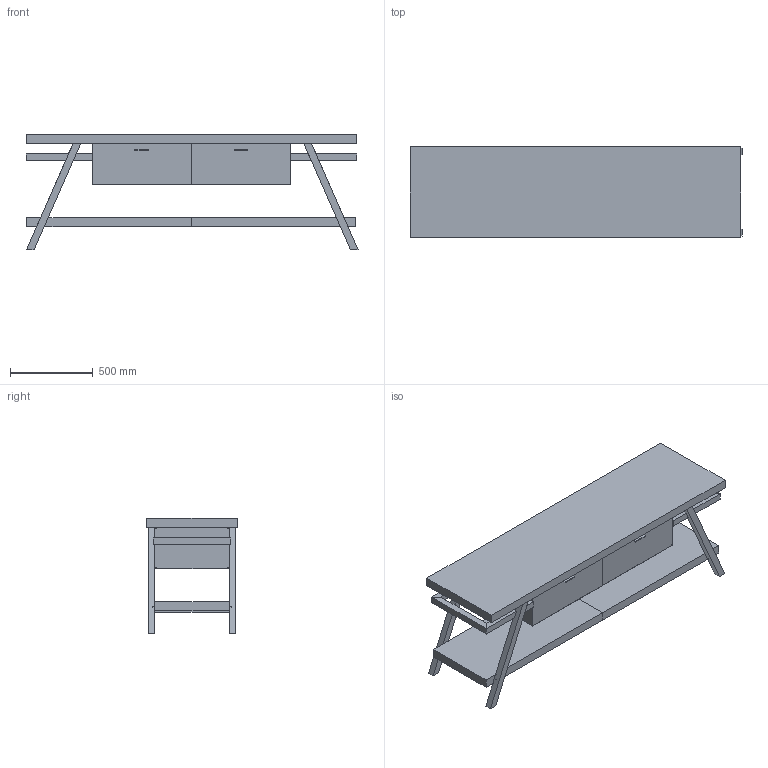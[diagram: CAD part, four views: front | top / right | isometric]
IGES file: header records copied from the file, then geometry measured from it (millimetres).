
Global section: file name: \\Archi-NAS\Comune\X GIOVANNI\MOBILI\PROVENCE\PROVENCE CABINET.igs; native system: Rhinoceros ( Jan 17 2018 ); preprocessor: Trout Lake IGES 012 Jan 17 2018; date: 230608.070845; units: millimetre
Bounding box: 2007.81 x 550 x 700 mm (x, y, z)
Surface area: 11107247.1 mm2 (no closed solid volume)
Topology: 0 solids, 0 shells, 214 faces, 1048 edges, 1048 vertices
Faces by surface type: bspline 214
